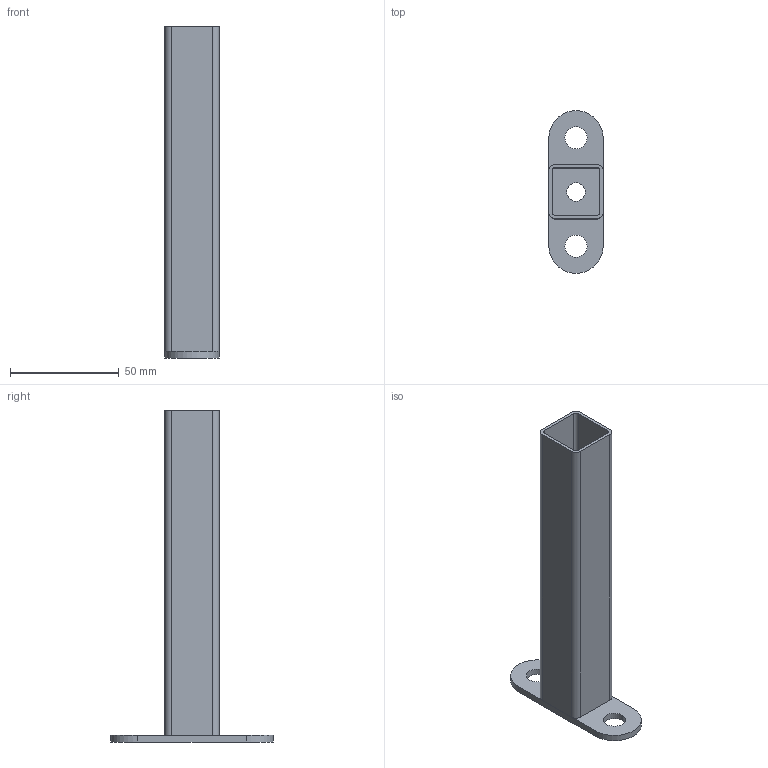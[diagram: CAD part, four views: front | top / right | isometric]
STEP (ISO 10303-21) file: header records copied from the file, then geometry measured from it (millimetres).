
FILE_DESCRIPTION (( 'STEP AP214' ), '1' );
FILE_NAME ('7640415.STEP', '2024-01-25T10:49:45', ( '' ), ( '' ), 'SwSTEP 2.0', 'SolidWorks 2022', '' );
FILE_SCHEMA (( 'AUTOMOTIVE_DESIGN' ));
Length unit declared in the file: millimetre
Products named in the file (1): 7640415
Bounding box: 25 x 75 x 153 mm (x, y, z)
Volume: 24838.2 mm3; surface area: 31158.7 mm2
Topology: 2 solids, 2 shells, 30 faces, 78 edges, 52 vertices
Faces by surface type: cylinder 16, plane 14
Entity records: 993 total; most frequent: DIRECTION 172, CARTESIAN_POINT 161, ORIENTED_EDGE 156, EDGE_CURVE 78, AXIS2_PLACEMENT_3D 63, VERTEX_POINT 52, LINE 46, VECTOR 46
